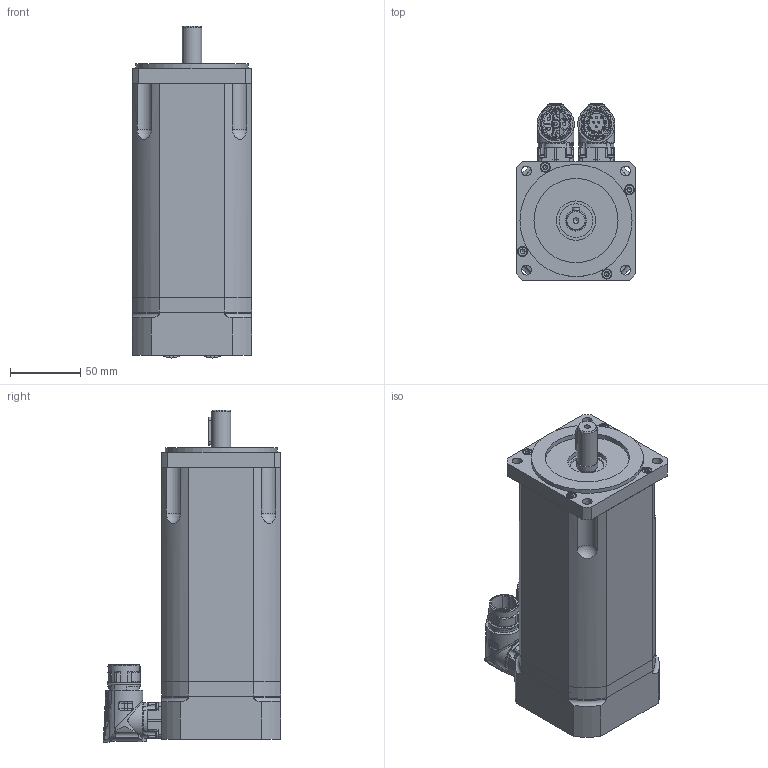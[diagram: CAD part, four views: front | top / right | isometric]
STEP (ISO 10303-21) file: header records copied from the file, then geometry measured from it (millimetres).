
FILE_DESCRIPTION(/* description */ (''),/* implementation_level */ '2;1');
FILE_NAME(/* name */ 'C:\Users\Public\Documents\Autodesk\Inventor LT 2014\Workspace\Motori Sito WEB\TG_3\STEP_DSM5_3x\DSM5_34_x097.stp',/* time_stamp */ '2021-03-31T14:12:39+02:00',/* author */ ('marcor'),/* organization */ (''),/* preprocessor_version */ 'ST-DEVELOPER v15.2',/* originating_system */ 'Autodesk Inventor LT ',/* authorisation */ '');
FILE_SCHEMA (('AUTOMOTIVE_DESIGN { 1 0 10303 214 3 1 1 }'));
Products named in the file (1): DSM5_34_x097
Bounding box: 85 x 126.5 x 236.81 mm (x, y, z)
Volume: 1431948.3 mm3; surface area: 148174.9 mm2
Topology: 16 solids, 26 shells, 1426 faces, 3697 edges, 2459 vertices
Faces by surface type: plane 523, cylinder 436, cone 247, bspline 113, torus 75, sphere 32
Full cylindrical faces by diameter (mm): 1.2 x12, 2.224 x8, 2.233 x6, 2.5 x8, 2.88 x8, 3.242 x12, 3.26 x8, 4 x12, 4.134 x1, 4.5 x14, 4.8 x8, 5.5 x3, 5.9 x2, 7 x16, 7.2 x8, 7.5 x4, 13.8 x1, 14 x1, 14.98 x1, 15.2 x1, 17.4 x3, 18 x1, 19.8 x1, 21.15 x4, 21.6 x1, 21.653 x2, 24 x1, 24.3 x2, 28 x1, 35 x2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
Entity records: 50570 total; most frequent: CARTESIAN_POINT 17558, ORIENTED_EDGE 6526, DIRECTION 6079, EDGE_CURVE 3263, AXIS2_PLACEMENT_3D 2496, VERTEX_POINT 2349, EDGE_LOOP 1944, ADVANCED_FACE 1426
